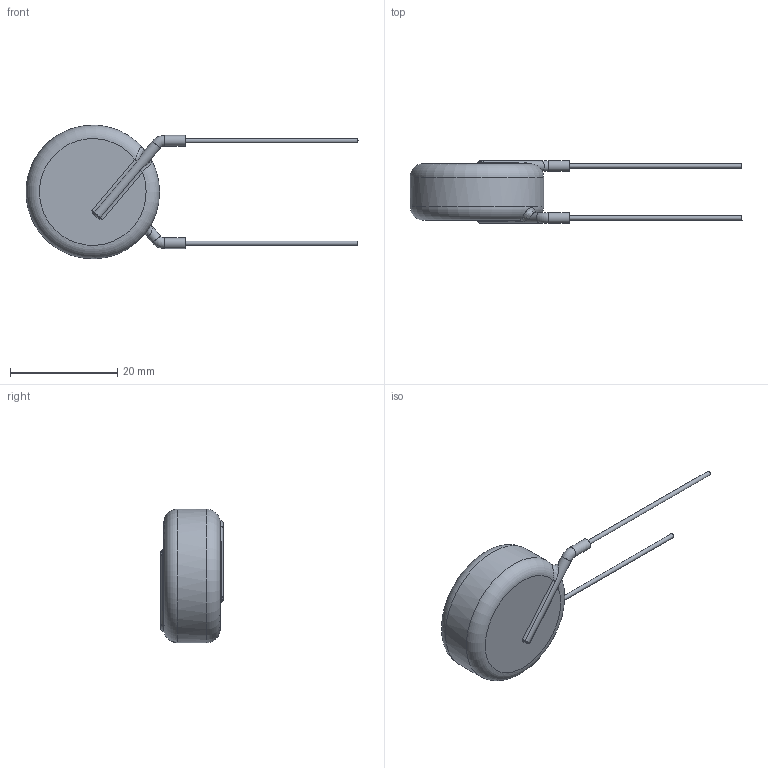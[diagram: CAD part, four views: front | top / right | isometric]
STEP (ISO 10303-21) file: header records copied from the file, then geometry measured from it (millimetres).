
FILE_DESCRIPTION((''),'2;1');
FILE_NAME('I:\Marketing\M6t1\3D-Models\Zchng-Werk-3\Upload for homepage\Ceramite\Y5R-15kV\615R150GATD10\615R150GATD10.stp','2015-08-28T14:43:09',(''),(''),'Autodesk Inventor 2013','Autodesk Inventor 2013','');
FILE_SCHEMA(('AUTOMOTIVE_DESIGN { 1 0 10303 214 1 1 1 1 }'));
Length unit declared in the file: centimetre
Products named in the file (1): 615R150GATD10
Bounding box: 61.9 x 11.68 x 24.9 mm (x, y, z)
Volume: 5030.6 mm3; surface area: 1905.7 mm2
Topology: 1 solids, 1 shells, 41 faces, 92 edges, 51 vertices
Faces by surface type: cylinder 13, bspline 10, torus 10, plane 8
Full cylindrical faces by diameter (mm): 0.81 x2, 1.98 x4, 24.9 x1
Entity records: 1507 total; most frequent: CARTESIAN_POINT 674, DIRECTION 152, ORIENTED_EDGE 140, AXIS2_PLACEMENT_3D 70, EDGE_CURVE 70, EDGE_LOOP 54, VERTEX_POINT 44, STYLED_ITEM 42
